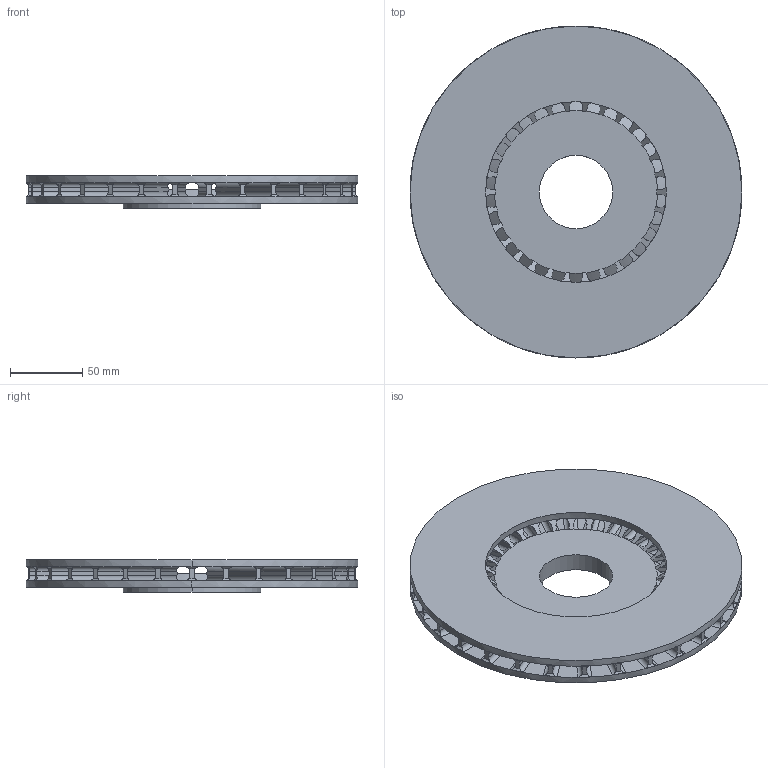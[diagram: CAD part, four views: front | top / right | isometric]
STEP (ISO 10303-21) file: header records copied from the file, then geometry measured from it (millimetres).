
FILE_DESCRIPTION (( 'STEP AP214' ), '1' );
FILE_NAME ('.75-2-9.STEP', '2015-09-14T15:23:05', ( '' ), ( '' ), 'SwSTEP 2.0', 'SolidWorks 2015', '' );
FILE_SCHEMA (( 'AUTOMOTIVE_DESIGN' ));
Length unit declared in the file: inch
Products named in the file (1): .75-2-9
Bounding box: 229.87 x 229.87 x 22.23 mm (x, y, z)
Volume: 449897.7 mm3; surface area: 163504.4 mm2
Topology: 1 solids, 1 shells, 346 faces, 1168 edges, 768 vertices
Faces by surface type: plane 186, cylinder 130, cone 30
Entity records: 13794 total; most frequent: CARTESIAN_POINT 4089, ORIENTED_EDGE 2336, DIRECTION 1790, EDGE_CURVE 1168, VERTEX_POINT 768, LINE 640, VECTOR 640, AXIS2_PLACEMENT_3D 575
